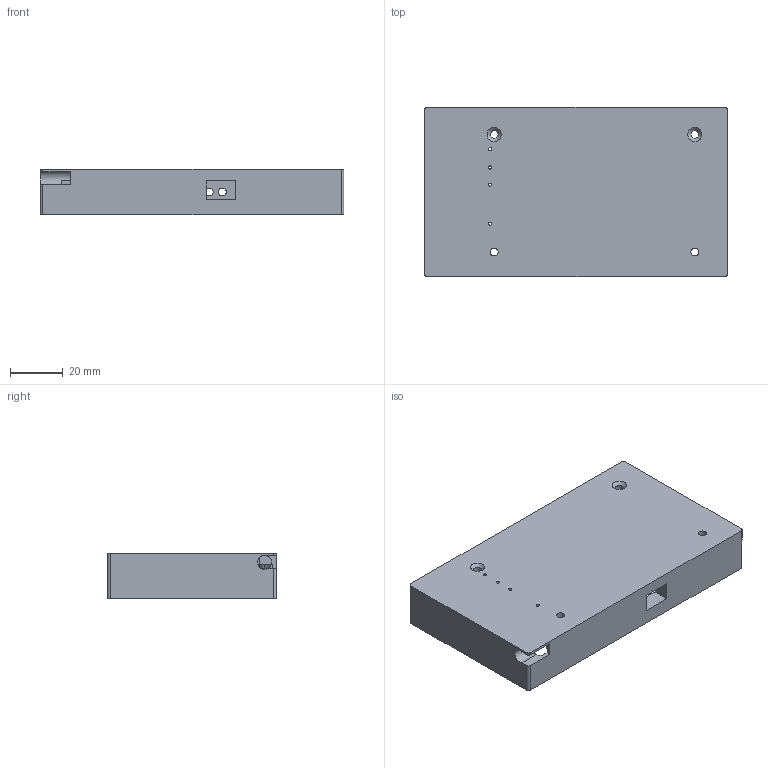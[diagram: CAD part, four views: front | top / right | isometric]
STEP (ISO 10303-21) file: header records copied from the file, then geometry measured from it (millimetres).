
FILE_DESCRIPTION(('STEP AP242'), '1');
FILE_NAME('Íèç', '', ('UNSPECIFIED'), ('UNSPECIFIED'), 'ASCON STEP Converter 1.6', 'ASCON Math Kernel', '');
FILE_SCHEMA(('AP242_MANAGED_MODEL_BASED_3D_ENGINEERING_MIM_LF { 1 0 10303 442 1 1 4 }'));
Length unit declared in the file: millimetre
Assembly tree (2 placements, depth 2):
  (unnamed)
    (unnamed)
    (unnamed)
Bounding box: 115 x 64 x 17.4 mm (x, y, z)
Volume: 22013.7 mm3; surface area: 27433.3 mm2
Topology: 1 solids, 1 shells, 125 faces, 389 edges, 277 vertices
Faces by surface type: plane 91, cylinder 32, cone 2
Full cylindrical faces by diameter (mm): 1.2 x4, 3 x11, 4 x4, 7 x2
Entity records: 5328 total; most frequent: CARTESIAN_POINT 766, DIRECTION 676, ORIENTED_EDGE 634, EDGE_CURVE 317, LINE 244, VECTOR 244, VERTEX_POINT 224, AXIS2_PLACEMENT_3D 216
